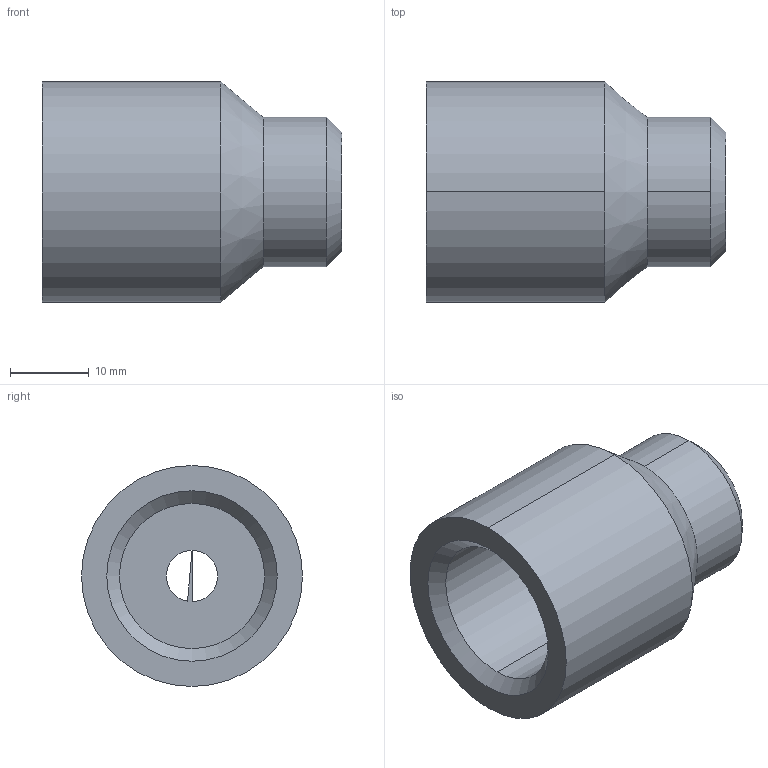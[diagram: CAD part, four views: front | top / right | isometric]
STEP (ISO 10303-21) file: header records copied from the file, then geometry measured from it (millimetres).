
FILE_DESCRIPTION(('TFLEX Exchange Step'),'2;1');
FILE_NAME('X2\0411043E0431044B0448043A0430\X0\ БПУ-М20-d6-М01.stp', '2020-10-14T16:42:14+05:00',('Пользователь'),('Unknown organisation'),'TFLEX Exchange 2019.1','T-FLEX CAD','Unknown authorisation');
FILE_SCHEMA( ('AUTOMOTIVE_DESIGN { 1 0 10303 214 1 1 1 1 }') );
Length unit declared in the file: millimetre
Products named in the file (1): Бобышка БПУ-М20-d6-М01
Bounding box: 38 x 28 x 28 mm (x, y, z)
Volume: 13019 mm3; surface area: 5394.2 mm2
Topology: 1 solids, 1 shells, 22 faces, 48 edges, 26 vertices
Faces by surface type: cylinder 10, cone 5, torus 4, plane 3
Entity records: 626 total; most frequent: DIRECTION 124, CARTESIAN_POINT 97, ORIENTED_EDGE 96, AXIS2_PLACEMENT_3D 53, EDGE_CURVE 48, CIRCLE 30, VERTEX_POINT 26, EDGE_LOOP 22
